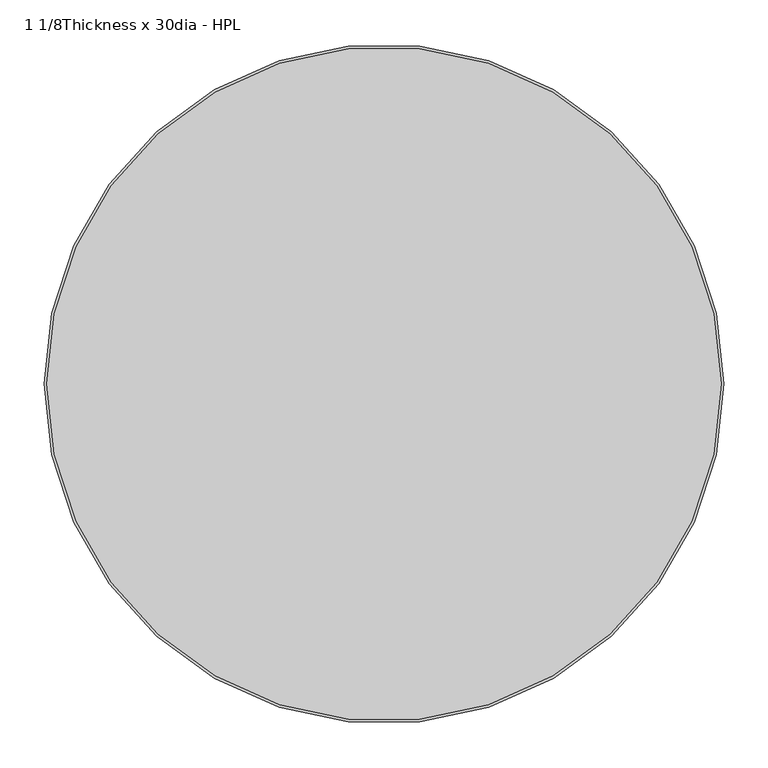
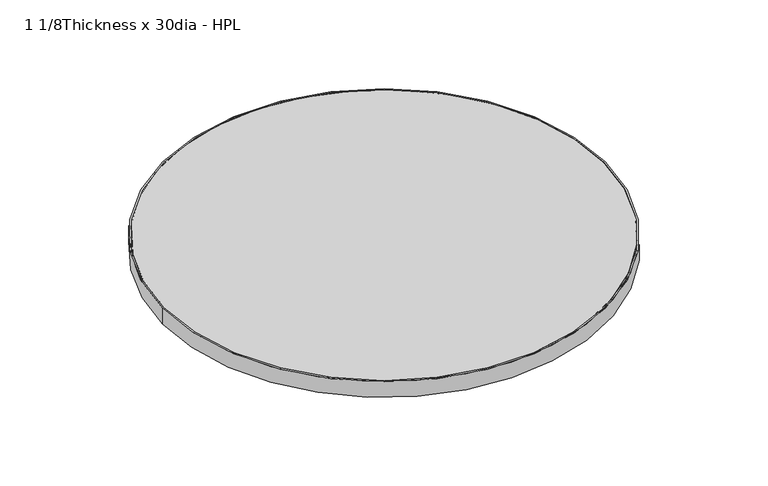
"""IFC4 building model written with IfcOpenShell, lengths in millimetres: furniture geometry, Steelcase - Groupwork - Table - Top - Round : 1 1/8Thickness x 30dia - HPL."""

from ifc_helpers import new_model, si_unit, point, frame, origin, origin_2d, place, context, project, spatial, circle_curve, trimmed, segment, composite_curve, outline, extrude, source, transform, mapped, element, save


def furniture_1_1_8thickness_x_30dia_hpl_ab5fbdb1(model_context):
    return source(origin(), model_context, "Body", "SweptSolid", [
        extrude(outline(composite_curve([segment(trimmed(circle_curve(origin_2d(), 384.048), [point((-384.048, 0.0))], [point((384.048, 0.0))], False, "CARTESIAN"), True, "CONTINUOUS"), segment(trimmed(circle_curve(origin_2d(), 384.048), [point((384.048, 0.0))], [point((-384.048, 0.0))], False, "CARTESIAN"), True, "CONTINUOUS")], self_intersect=False), holes=[composite_curve([segment(trimmed(circle_curve(origin_2d(), 381.0), [point((381.0, 0.0))], [point((-381.0, 0.0))], True, "CARTESIAN"), True, "CONTINUOUS"), segment(trimmed(circle_curve(origin_2d(), 381.0), [point((-381.0, 0.0))], [point((381.0, 0.0))], True, "CARTESIAN"), True, "CONTINUOUS")], self_intersect=False)]), frame((0.0, 0.0, 695.579), z_axis=(0.0, 0.0, 1.0), x_axis=(1.0, 0.0, 0.0)), (0.0, 0.0, 1.0), 28.702),
        extrude(outline(composite_curve([segment(trimmed(circle_curve(origin_2d(), 381.0), [point((-381.0, 0.0))], [point((381.0, 0.0))], False, "CARTESIAN"), True, "CONTINUOUS"), segment(trimmed(circle_curve(origin_2d(), 381.0), [point((381.0, 0.0))], [point((-381.0, 0.0))], False, "CARTESIAN"), True, "CONTINUOUS")], self_intersect=False)), frame((0.0, 0.0, 695.579), z_axis=(0.0, 0.0, 1.0), x_axis=(1.0, 0.0, 0.0)), (0.0, 0.0, 1.0), 28.702),
    ])


if __name__ == "__main__":
    model = new_model("IFC4")
    model_context = context("Model", 3, world=origin())
    ifc_project = project(units=[si_unit("LENGTHUNIT", "METRE", prefix="MILLI")], contexts=[model_context])
    site = spatial("IfcSite", under=ifc_project)
    building = spatial("IfcBuilding", under=site)
    placement = place(None, origin())
    furniture_1_1_8thickness_x_30dia_hpl_shape = furniture_1_1_8thickness_x_30dia_hpl_ab5fbdb1(model_context)
    element("IfcFurniture", 1, ObjectType="Steelcase - Groupwork - Table - Top - Round : 1 1/8Thickness x 30dia - HPL", at=placement, inside=building, context=model_context, shape_type="MappedRepresentation", body=[
        mapped(furniture_1_1_8thickness_x_30dia_hpl_shape, transform((0.0, 0.0, 0.0), x_axis=(1.0, 0.0, 0.0), y_axis=(0.0, 1.0, 0.0), z_axis=(0.0, 0.0, 1.0))),
    ])
    save(model, "model.ifc")
